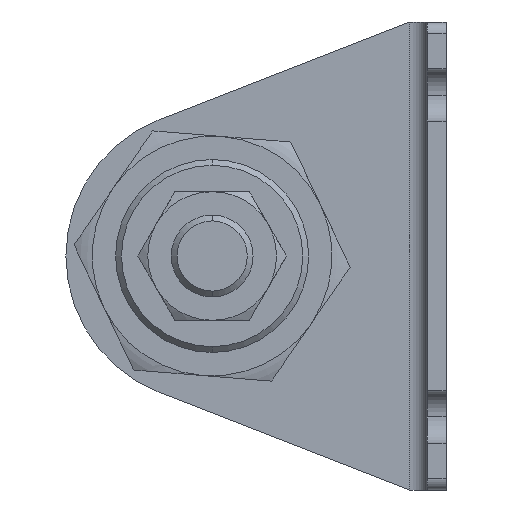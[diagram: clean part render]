
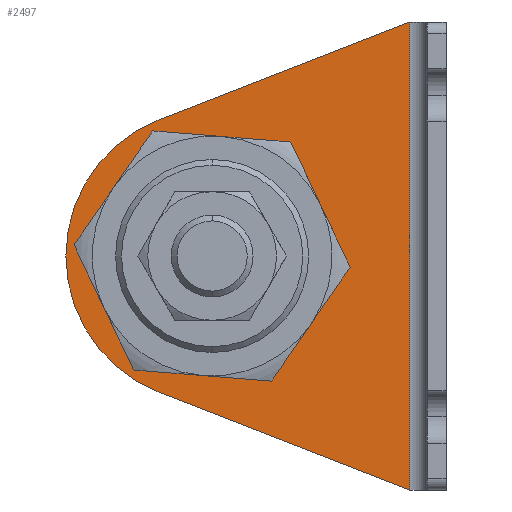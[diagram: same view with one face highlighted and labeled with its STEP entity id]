
A CAD part, left-side view. The second image highlights one B-rep face of the part: STEP entity #2497.
In plain terms, the highlighted planar face has unit normal (-1, 0, 0) as drawn and (1, 0, 0) by its records, which use the part's own axes.
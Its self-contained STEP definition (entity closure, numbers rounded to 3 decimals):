
#32 = VERTEX_POINT ( 'NONE', #503 ) ;
#80 = DIRECTION ( 'NONE',  ( 0., 1., 0. ) ) ;
#102 = VECTOR ( 'NONE', #4443, 1000. ) ;
#238 = VERTEX_POINT ( 'NONE', #1966 ) ;
#243 = CARTESIAN_POINT ( 'NONE',  ( 3.2, 6.2, -80. ) ) ;
#375 = VERTEX_POINT ( 'NONE', #2153 ) ;
#426 = DIRECTION ( 'NONE',  ( 0., 1., 0. ) ) ;
#503 = CARTESIAN_POINT ( 'NONE',  ( 3.2, 6.2, 0. ) ) ;
#552 = VERTEX_POINT ( 'NONE', #1144 ) ;
#583 = CIRCLE ( 'NONE', #2480, 25. ) ;
#604 = AXIS2_PLACEMENT_3D ( 'NONE', #891, #2709, #426 ) ;
#623 = LINE ( 'NONE', #1207, #3121 ) ;
#691 = FACE_OUTER_BOUND ( 'NONE', #2056, .T. ) ;
#749 = EDGE_CURVE ( 'NONE', #2601, #375, #2483, .T. ) ;
#774 = CARTESIAN_POINT ( 'NONE',  ( 3.2, 40., -40. ) ) ;
#793 = VERTEX_POINT ( 'NONE', #4339 ) ;
#891 = CARTESIAN_POINT ( 'NONE',  ( 3.2, 40., -40. ) ) ;
#1000 = CARTESIAN_POINT ( 'NONE',  ( 3.2, 30.657, -9.529 ) ) ;
#1133 = DIRECTION ( 'NONE',  ( 1., 0., 0. ) ) ;
#1144 = CARTESIAN_POINT ( 'NONE',  ( 3.2, 49.076, -16.706 ) ) ;
#1207 = CARTESIAN_POINT ( 'NONE',  ( 3.2, 3.595, -81.015 ) ) ;
#1235 = EDGE_CURVE ( 'NONE', #32, #552, #2874, .T. ) ;
#1280 = CARTESIAN_POINT ( 'NONE',  ( 3.2, 56.5, -40. ) ) ;
#1397 = EDGE_CURVE ( 'NONE', #2718, #793, #623, .T. ) ;
#1647 = CARTESIAN_POINT ( 'NONE',  ( 3.2, 3.2, -80. ) ) ;
#1750 = ORIENTED_EDGE ( 'NONE', *, *, #1235, .F. ) ;
#1932 = DIRECTION ( 'NONE',  ( 1., 0., 0. ) ) ;
#1966 = CARTESIAN_POINT ( 'NONE',  ( 3.2, 65., -40. ) ) ;
#1999 = PLANE ( 'NONE',  #3934 ) ;
#2046 = DIRECTION ( 'NONE',  ( 1., 0., 0. ) ) ;
#2056 = EDGE_LOOP ( 'NONE', ( #2621, #2793, #3217, #1750, #2352 ) ) ;
#2063 = ORIENTED_EDGE ( 'NONE', *, *, #749, .F. ) ;
#2146 = DIRECTION ( 'NONE',  ( 0., 0.932, -0.363 ) ) ;
#2153 = CARTESIAN_POINT ( 'NONE',  ( 3.2, 23.5, -40. ) ) ;
#2308 = AXIS2_PLACEMENT_3D ( 'NONE', #3351, #2046, #80 ) ;
#2352 = ORIENTED_EDGE ( 'NONE', *, *, #2494, .T. ) ;
#2475 = EDGE_CURVE ( 'NONE', #238, #552, #583, .T. ) ;
#2480 = AXIS2_PLACEMENT_3D ( 'NONE', #774, #1932, #2920 ) ;
#2483 = CIRCLE ( 'NONE', #604, 16.5 ) ;
#2494 = EDGE_CURVE ( 'NONE', #32, #2718, #4159, .T. ) ;
#2497 = ADVANCED_FACE ( 'NONE', ( #3067, #691 ), #1999, .T. ) ;
#2601 = VERTEX_POINT ( 'NONE', #1280 ) ;
#2621 = ORIENTED_EDGE ( 'NONE', *, *, #1397, .T. ) ;
#2709 = DIRECTION ( 'NONE',  ( 1., 0., 0. ) ) ;
#2718 = VERTEX_POINT ( 'NONE', #3093 ) ;
#2746 = CARTESIAN_POINT ( 'NONE',  ( 3.2, 40., -40. ) ) ;
#2793 = ORIENTED_EDGE ( 'NONE', *, *, #3834, .T. ) ;
#2874 = LINE ( 'NONE', #1000, #3608 ) ;
#2920 = DIRECTION ( 'NONE',  ( 0., 1., 0. ) ) ;
#3067 = FACE_BOUND ( 'NONE', #4207, .T. ) ;
#3093 = CARTESIAN_POINT ( 'NONE',  ( 3.2, 6.2, -80. ) ) ;
#3121 = VECTOR ( 'NONE', #3721, 1000. ) ;
#3217 = ORIENTED_EDGE ( 'NONE', *, *, #2475, .T. ) ;
#3293 = DIRECTION ( 'NONE',  ( 0., 1., 0. ) ) ;
#3351 = CARTESIAN_POINT ( 'NONE',  ( 3.2, 40., -40. ) ) ;
#3398 = DIRECTION ( 'NONE',  ( 0., 1., 0. ) ) ;
#3608 = VECTOR ( 'NONE', #2146, 1000. ) ;
#3721 = DIRECTION ( 'NONE',  ( 0., 0.932, 0.363 ) ) ;
#3815 = DIRECTION ( 'NONE',  ( 1., 0., 0. ) ) ;
#3834 = EDGE_CURVE ( 'NONE', #793, #238, #3930, .T. ) ;
#3930 = CIRCLE ( 'NONE', #3944, 25. ) ;
#3934 = AXIS2_PLACEMENT_3D ( 'NONE', #1647, #1133, #3293 ) ;
#3944 = AXIS2_PLACEMENT_3D ( 'NONE', #2746, #3815, #3398 ) ;
#4091 = CIRCLE ( 'NONE', #2308, 16.5 ) ;
#4153 = ORIENTED_EDGE ( 'NONE', *, *, #4329, .F. ) ;
#4159 = LINE ( 'NONE', #243, #102 ) ;
#4207 = EDGE_LOOP ( 'NONE', ( #2063, #4153 ) ) ;
#4329 = EDGE_CURVE ( 'NONE', #375, #2601, #4091, .T. ) ;
#4339 = CARTESIAN_POINT ( 'NONE',  ( 3.2, 49.076, -63.294 ) ) ;
#4443 = DIRECTION ( 'NONE',  ( 0., 0., -1. ) ) ;
